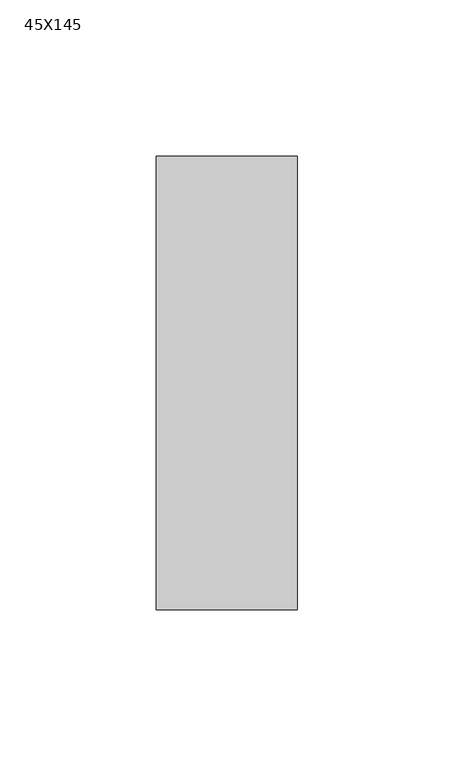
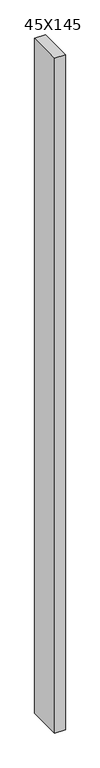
"""IFC4 building model written with IfcOpenShell, lengths in millimetres: column geometry, Bois - Bois de construction de dimensions courantes : 45X145."""

from ifc_helpers import new_model, si_unit, origin, origin_with_axes, place, context, project, spatial, polyline, outline, extrude, source, transform, mapped, element, save


def column_45x145_2b58826d(model_context):
    return source(origin(), model_context, "Body", "SweptSolid", [
        extrude(outline(polyline([(22.5, 72.5), (22.5, -72.5), (-22.5, -72.5), (-22.5, 72.5), (22.5, 72.5)])), origin_with_axes(), (0.0, 0.0, 1.0), 3000.0),
    ])


if __name__ == "__main__":
    model = new_model("IFC4")
    model_context = context("Model", 3, world=origin())
    ifc_project = project(units=[si_unit("LENGTHUNIT", "METRE", prefix="MILLI")], contexts=[model_context])
    site = spatial("IfcSite", under=ifc_project)
    building = spatial("IfcBuilding", under=site)
    placement = place(None, origin())
    column_45x145_shape = column_45x145_2b58826d(model_context)
    element("IfcColumn", 1, ObjectType="Bois - Bois de construction de dimensions courantes : 45X145", at=placement, inside=building, context=model_context, shape_type="MappedRepresentation", body=[
        mapped(column_45x145_shape, transform((0.0, 0.0, 0.0), x_axis=(1.0, 0.0, 0.0), y_axis=(0.0, 1.0, 0.0), z_axis=(0.0, 0.0, 1.0))),
    ])
    save(model, "model.ifc")
